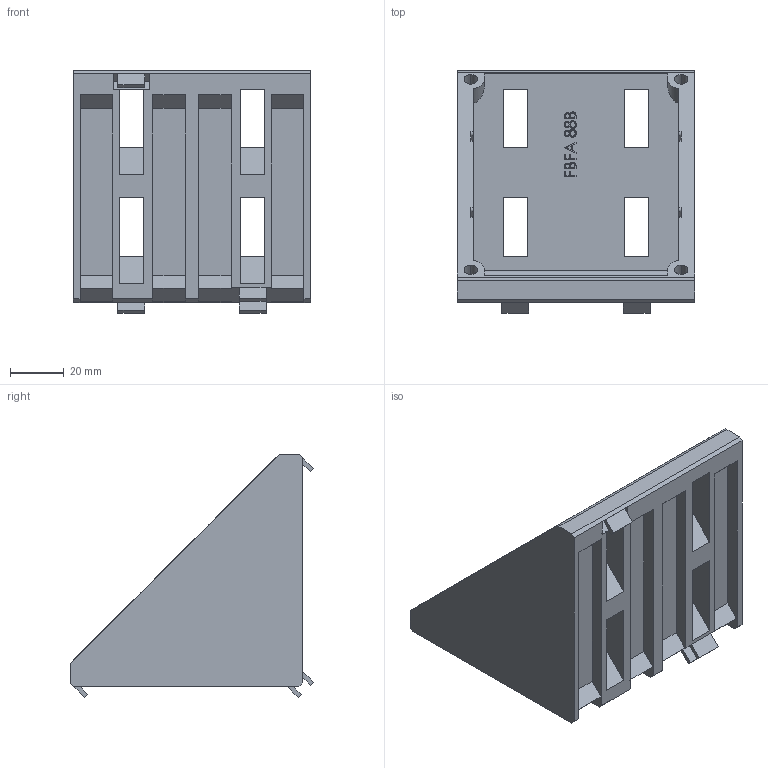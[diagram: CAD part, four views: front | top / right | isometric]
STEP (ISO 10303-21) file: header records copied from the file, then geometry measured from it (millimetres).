
FILE_DESCRIPTION (( 'STEP AP214' ), '1' );
FILE_NAME ('FBFA 88B.step', '2017-04-05T08:02:04', ( '' ), ( '' ), 'SwSTEP 2.0', 'SolidWorks 2015', '' );
FILE_SCHEMA (( 'AUTOMOTIVE_DESIGN' ));
Length unit declared in the file: millimetre
Products named in the file (1): FBFA 88B
Bounding box: 88 x 90.03 x 90.03 mm (x, y, z)
Volume: 122958.6 mm3; surface area: 52952.9 mm2
Topology: 1 solids, 1 shells, 282 faces, 763 edges, 506 vertices
Faces by surface type: plane 199, bspline 52, cylinder 31
Entity records: 11643 total; most frequent: CARTESIAN_POINT 4784, ORIENTED_EDGE 1526, DIRECTION 1175, EDGE_CURVE 763, LINE 597, VECTOR 597, VERTEX_POINT 506, EDGE_LOOP 321
